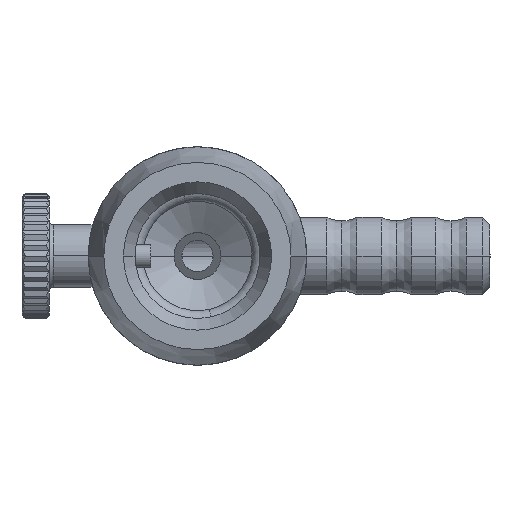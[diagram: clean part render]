
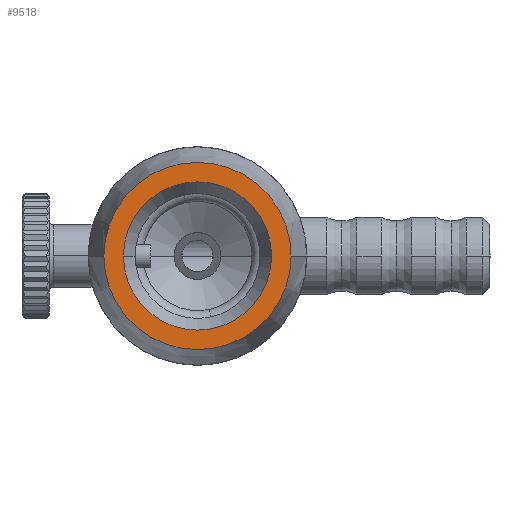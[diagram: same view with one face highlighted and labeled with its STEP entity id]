
A CAD part, left-side view. The second image highlights one B-rep face of the part: STEP entity #9518.
In plain terms, the highlighted planar face has unit normal (-1, 0, 0).
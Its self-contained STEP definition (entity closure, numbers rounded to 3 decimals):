
#1560=CARTESIAN_POINT('',(0.0,12.,0.0));
#1561=VERTEX_POINT('',#1560);
#1570=CARTESIAN_POINT('',(0.0,-12.,0.));
#1571=VERTEX_POINT('',#1570);
#1572=CARTESIAN_POINT('',(0.0,0.0,0.0));
#1573=DIRECTION('',(1.0,0.0,0.0));
#1574=DIRECTION('',(0.0,1.0,0.0));
#1575=AXIS2_PLACEMENT_3D('',#1572,#1573,#1574);
#1576=CIRCLE('',#1575,12.);
#1577=EDGE_CURVE('',#1561,#1571,#1576,.T.);
#1929=CARTESIAN_POINT('',(0.0,9.5,0.0));
#1930=VERTEX_POINT('',#1929);
#1939=CARTESIAN_POINT('',(0.0,-9.5,0.));
#1940=VERTEX_POINT('',#1939);
#1941=CARTESIAN_POINT('',(0.0,0.0,0.0));
#1942=DIRECTION('',(1.0,0.0,0.0));
#1943=DIRECTION('',(0.0,1.0,0.0));
#1944=AXIS2_PLACEMENT_3D('',#1941,#1942,#1943);
#1945=CIRCLE('',#1944,9.5);
#1946=EDGE_CURVE('',#1940,#1930,#1945,.T.);
#9366=CARTESIAN_POINT('',(0.0,0.0,0.0));
#9367=DIRECTION('',(1.0,0.0,0.0));
#9368=DIRECTION('',(0.0,1.0,0.0));
#9369=AXIS2_PLACEMENT_3D('',#9366,#9367,#9368);
#9370=CIRCLE('',#9369,9.5);
#9371=EDGE_CURVE('',#1930,#1940,#9370,.T.);
#9495=CARTESIAN_POINT('',(0.0,0.0,0.0));
#9496=DIRECTION('',(1.0,0.0,0.0));
#9497=DIRECTION('',(0.0,1.0,0.0));
#9498=AXIS2_PLACEMENT_3D('',#9495,#9496,#9497);
#9499=CIRCLE('',#9498,12.);
#9500=EDGE_CURVE('',#1571,#1561,#9499,.T.);
#9505=CARTESIAN_POINT('',(0.0,6.,0.0));
#9506=DIRECTION('',(-1.0,0.0,0.0));
#9507=DIRECTION('',(0.0,0.0,1.0));
#9508=AXIS2_PLACEMENT_3D('',#9505,#9506,#9507);
#9509=PLANE('',#9508);
#9510=ORIENTED_EDGE('',*,*,#1577,.F.);
#9511=ORIENTED_EDGE('',*,*,#9500,.F.);
#9512=EDGE_LOOP('',(#9510,#9511));
#9513=FACE_OUTER_BOUND('',#9512,.T.);
#9514=ORIENTED_EDGE('',*,*,#9371,.T.);
#9515=ORIENTED_EDGE('',*,*,#1946,.T.);
#9516=EDGE_LOOP('',(#9514,#9515));
#9517=FACE_BOUND('',#9516,.T.);
#9518=ADVANCED_FACE('',(#9513,#9517),#9509,.T.);
